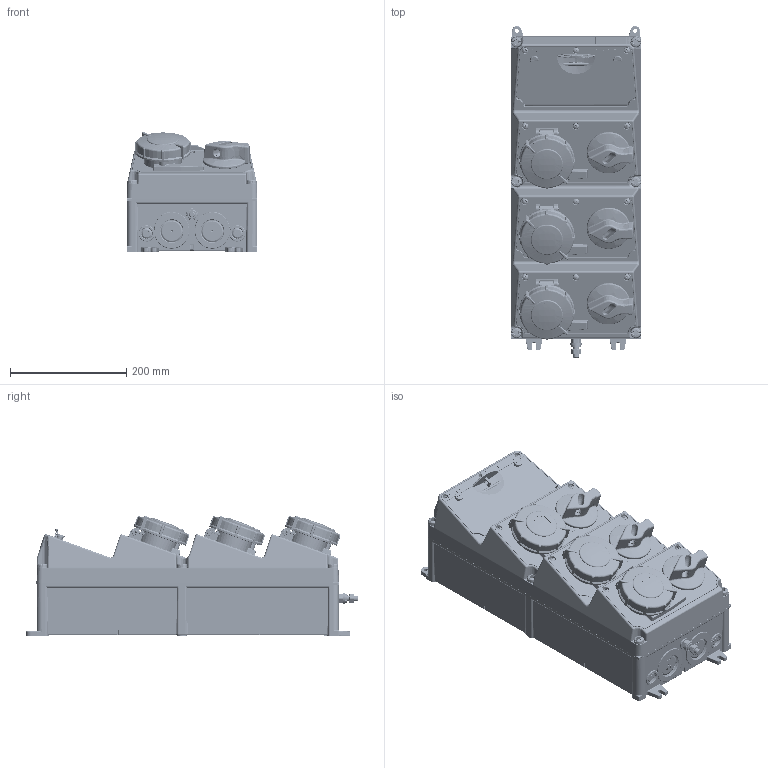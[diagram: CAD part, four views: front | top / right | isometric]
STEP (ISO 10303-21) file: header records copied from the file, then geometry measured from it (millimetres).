
FILE_DESCRIPTION((''),'2;1');
FILE_NAME('940027-2_ASM_1_ASM','2018-06-22T',('kremer'),('MENNEKES'),'PRO/ENGINEER BY PARAMETRIC TECHNOLOGY CORPORATION, 2015440','PRO/ENGINEER BY PARAMETRIC TECHNOLOGY CORPORATION, 2015440','');
FILE_SCHEMA(('AUTOMOTIVE_DESIGN { 1 0 10303 214 1 1 1 1 }'));
Products named in the file (6): 4-4_SW_O_GRAU_1; LS_3POL_3TE_1; MP_FEN10_67_OBEN_GRAU_1; MP_DUO_32_3_67_ROT_GRAU_1; AUSSENERDER_M10; 940027-2_ASM_1_ASM
Assembly tree (9 placements, depth 2):
  940027-2_ASM_1_ASM
    4-4_SW_O_GRAU_1
    LS_3POL_3TE_1  x3
    MP_FEN10_67_OBEN_GRAU_1
    MP_DUO_32_3_67_ROT_GRAU_1  x3
    AUSSENERDER_M10
Bounding box: 225 x 571.39 x 206.64 mm (x, y, z)
Volume: 13970099.5 mm3; surface area: 1349638.9 mm2
Topology: 9 solids, 9 shells, 15757 faces, 43505 edges, 27977 vertices
Faces by surface type: plane 8999, cylinder 3361, bspline 1373, torus 1144, cone 480, sphere 275, extrusion 125
Entity records: 467433 total; most frequent: CARTESIAN_POINT 136799, ORIENTED_EDGE 52340, DIRECTION 44926, EDGE_CURVE 26170, VERTEX_POINT 16730, PRESENTATION_STYLE_ASSIGNMENT 15777, VECTOR 15390, LINE 15279
